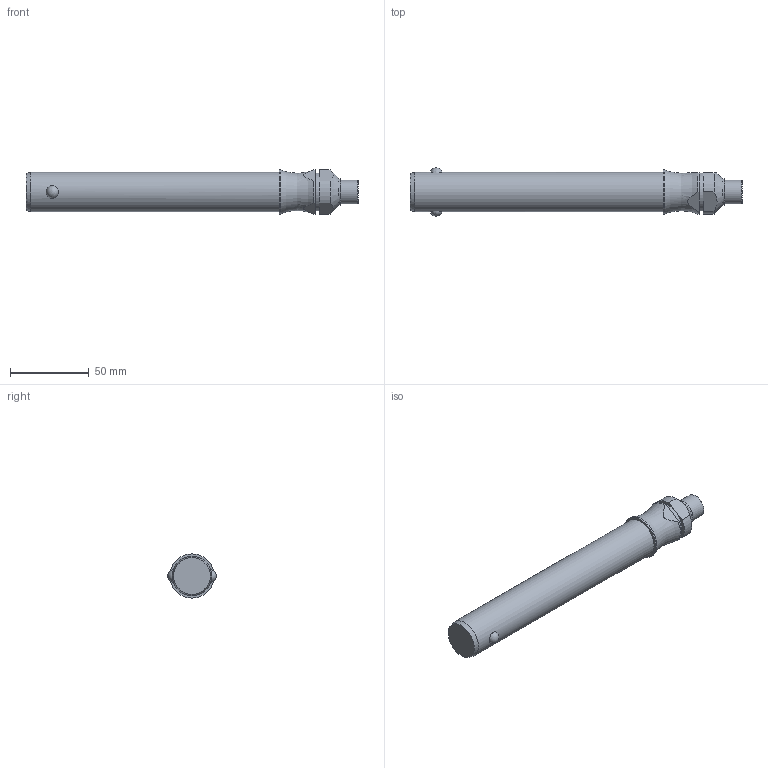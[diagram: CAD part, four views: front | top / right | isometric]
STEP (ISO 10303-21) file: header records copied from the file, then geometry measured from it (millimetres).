
FILE_DESCRIPTION( ( 'STEP AP203' ), '1' );
FILE_NAME( 'C:/Temp/Ganter_Step_05_03_2020/data/3_1/gn113_3/Stainless Steel-Ball lock pin GN 113.3-25-140 (deactivated).stp', '2020-03-12T08:19:13', ( 'License CC BY-ND 4.0' ), ( 'CADENAS' ), ' ', 'PARTsolutions', ' ' );
FILE_SCHEMA( ( 'CONFIG_CONTROL_DESIGN' ) );
Length unit declared in the file: millimetre
Products named in the file (1): _Stainless Steel-Ball lock pin GN 113.3-25-140 (deactivated)
Bounding box: 210.6 x 30.75 x 28 mm (x, y, z)
Volume: 99661.2 mm3; surface area: 17391.5 mm2
Topology: 1 solids, 1 shells, 29 faces, 62 edges, 40 vertices
Faces by surface type: plane 11, cylinder 11, cone 4, sphere 2, torus 1
Full cylindrical faces by diameter (mm): 15 x1, 17 x1, 24 x1, 25 x1, 28 x1
Entity records: 1006 total; most frequent: CARTESIAN_POINT 376, DIRECTION 126, ORIENTED_EDGE 100, AXIS2_PLACEMENT_3D 54, EDGE_CURVE 50, EDGE_LOOP 44, VERTEX_POINT 38, FACE_OUTER_BOUND 35
